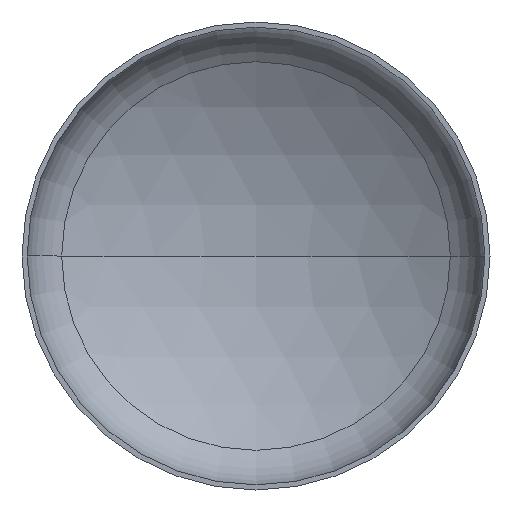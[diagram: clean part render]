
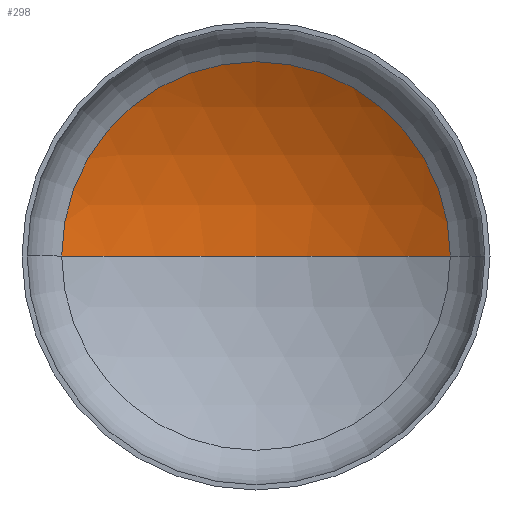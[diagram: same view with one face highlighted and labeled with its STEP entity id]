
A CAD part, front view. The second image highlights one B-rep face of the part: STEP entity #298.
In plain terms, the highlighted spherical face has radius 218 mm.
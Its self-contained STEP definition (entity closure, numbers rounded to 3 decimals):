
#5 = VERTEX_POINT ( 'NONE', #398 ) ;
#6 = VERTEX_POINT ( 'NONE', #145 ) ;
#13 = ORIENTED_EDGE ( 'NONE', *, *, #243, .T. ) ;
#23 = ORIENTED_EDGE ( 'NONE', *, *, #309, .F. ) ;
#28 = DIRECTION ( 'NONE',  ( 0., 0., -1. ) ) ;
#41 = VERTEX_POINT ( 'NONE', #240 ) ;
#53 = DIRECTION ( 'NONE',  ( -1., 0., 0. ) ) ;
#87 = EDGE_LOOP ( 'NONE', ( #23, #13, #90 ) ) ;
#90 = ORIENTED_EDGE ( 'NONE', *, *, #285, .T. ) ;
#144 = CIRCLE ( 'NONE', #407, 218. ) ;
#145 = CARTESIAN_POINT ( 'NONE',  ( -113.335, 55.878, 0. ) ) ;
#155 = CIRCLE ( 'NONE', #232, 218. ) ;
#177 = DIRECTION ( 'NONE',  ( 0., 0., 1. ) ) ;
#212 = CARTESIAN_POINT ( 'NONE',  ( 0., -130.345, 0. ) ) ;
#213 = DIRECTION ( 'NONE',  ( 1., 0., 0. ) ) ;
#214 = SPHERICAL_SURFACE ( 'NONE', #388, 218. ) ;
#226 = CARTESIAN_POINT ( 'NONE',  ( 0., 55.878, 0. ) ) ;
#227 = DIRECTION ( 'NONE',  ( 0., -1., 0. ) ) ;
#228 = CARTESIAN_POINT ( 'NONE',  ( 0., -130.345, 0. ) ) ;
#232 = AXIS2_PLACEMENT_3D ( 'NONE', #258, #255, #250 ) ;
#236 = DIRECTION ( 'NONE',  ( 1., 0., 0. ) ) ;
#240 = CARTESIAN_POINT ( 'NONE',  ( 113.335, 55.878, 0. ) ) ;
#243 = EDGE_CURVE ( 'NONE', #5, #41, #155, .T. ) ;
#250 = DIRECTION ( 'NONE',  ( -1., 0., 0. ) ) ;
#255 = DIRECTION ( 'NONE',  ( 0., 0., -1. ) ) ;
#258 = CARTESIAN_POINT ( 'NONE',  ( 0., -130.345, 0. ) ) ;
#285 = EDGE_CURVE ( 'NONE', #41, #6, #295, .T. ) ;
#288 = FACE_OUTER_BOUND ( 'NONE', #87, .T. ) ;
#295 = CIRCLE ( 'NONE', #306, 113.335 ) ;
#298 = ADVANCED_FACE ( 'NONE', ( #288 ), #214, .F. ) ;
#306 = AXIS2_PLACEMENT_3D ( 'NONE', #226, #227, #236 ) ;
#309 = EDGE_CURVE ( 'NONE', #5, #6, #144, .T. ) ;
#388 = AXIS2_PLACEMENT_3D ( 'NONE', #228, #28, #53 ) ;
#398 = CARTESIAN_POINT ( 'NONE',  ( 0., 87.655, 0. ) ) ;
#407 = AXIS2_PLACEMENT_3D ( 'NONE', #212, #177, #213 ) ;
